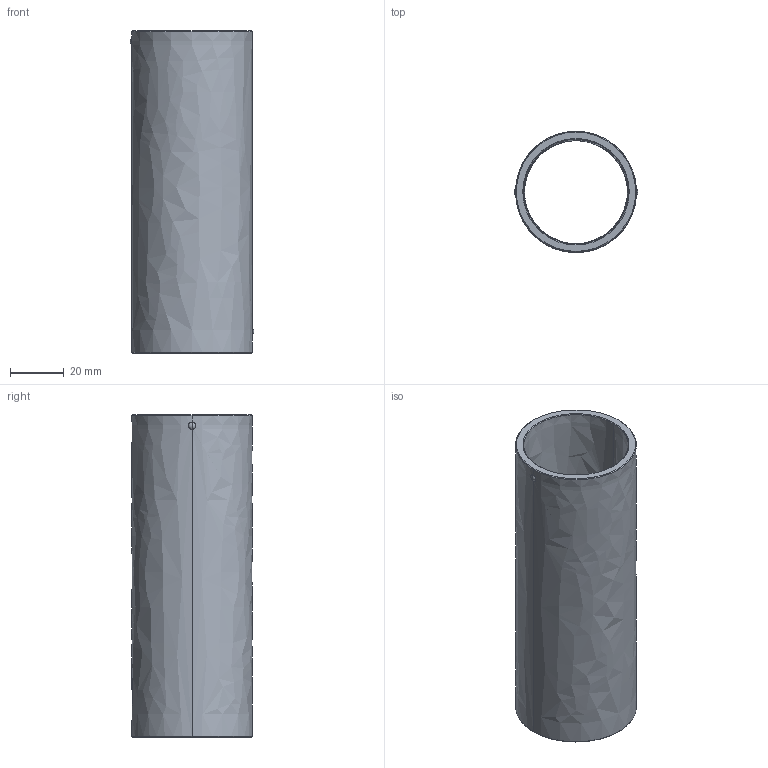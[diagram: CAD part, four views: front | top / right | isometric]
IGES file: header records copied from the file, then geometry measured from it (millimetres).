
Start section: START RECORD GO HERE.
Global section: file name: 730-38x120.igs; native system: DASSAULT SYSTEMES CATIA V5 R20 - www.3ds.com; preprocessor: CATIA Version 5 Release 20 ; author: Utente; organization: NB04-ASUS; date: 20210107.170810; units: millimetre
Bounding box: 45.99 x 45 x 120 mm (x, y, z)
Surface area: 32907.9 mm2 (no closed solid volume)
Topology: 0 solids, 0 shells, 44 faces, 240 edges, 240 vertices
Faces by surface type: revolution 36, plane 8
